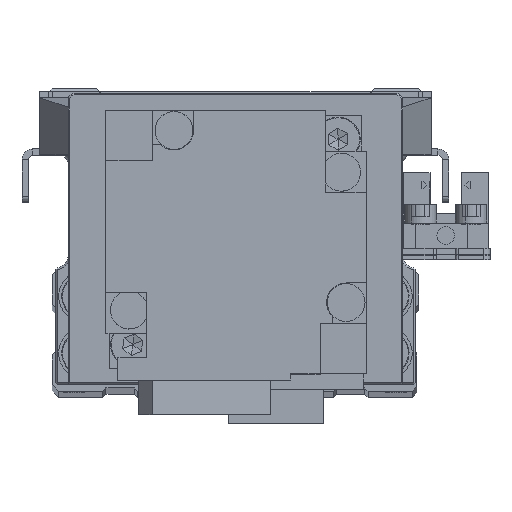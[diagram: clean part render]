
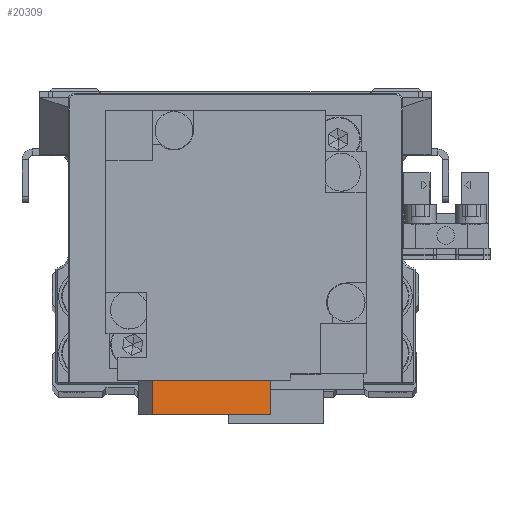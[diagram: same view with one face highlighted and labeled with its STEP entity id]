
A CAD part, top view. The second image highlights one B-rep face of the part: STEP entity #20309.
In plain terms, the highlighted planar face has unit normal (0.156, 0, 0.988) as drawn and (-0.156, 0, -0.988) by its records, which use the part's own axes.
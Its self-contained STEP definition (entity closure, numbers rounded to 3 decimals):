
#88 = DIRECTION ( 'NONE',  ( 0.988, 0., -0.156 ) ) ;
#1853 = VECTOR ( 'NONE', #88, 1000. ) ;
#2282 = DIRECTION ( 'NONE',  ( 0., 1., 0. ) ) ;
#2450 = AXIS2_PLACEMENT_3D ( 'NONE', #5301, #17459, #29637 ) ;
#2785 = EDGE_CURVE ( 'NONE', #23882, #32159, #17422, .T. ) ;
#3454 = DIRECTION ( 'NONE',  ( 0., -1., 0. ) ) ;
#3669 = ORIENTED_EDGE ( 'NONE', *, *, #20898, .T. ) ;
#4044 = LINE ( 'NONE', #16190, #18395 ) ;
#4655 = VECTOR ( 'NONE', #3454, 1000. ) ;
#5301 = CARTESIAN_POINT ( 'NONE',  ( 3.8, -24.75, -77.61 ) ) ;
#7358 = ORIENTED_EDGE ( 'NONE', *, *, #18497, .F. ) ;
#11093 = VECTOR ( 'NONE', #2282, 1000. ) ;
#12088 = CARTESIAN_POINT ( 'NONE',  ( 13.183, -27.5, -79.096 ) ) ;
#15220 = LINE ( 'NONE', #27400, #1853 ) ;
#15618 = VERTEX_POINT ( 'NONE', #31932 ) ;
#16190 = CARTESIAN_POINT ( 'NONE',  ( 3.8, -27.5, -77.61 ) ) ;
#17422 = LINE ( 'NONE', #29597, #11093 ) ;
#17459 = DIRECTION ( 'NONE',  ( 0.156, 0., 0.988 ) ) ;
#17682 = CARTESIAN_POINT ( 'NONE',  ( -5.583, -22., -76.124 ) ) ;
#18395 = VECTOR ( 'NONE', #28364, 1000. ) ;
#18497 = EDGE_CURVE ( 'NONE', #38273, #15618, #18607, .T. ) ;
#18607 = LINE ( 'NONE', #30780, #4655 ) ;
#19187 = EDGE_CURVE ( 'NONE', #15618, #23882, #4044, .T. ) ;
#20309 = ADVANCED_FACE ( 'NONE', ( #20465 ), #32654, .F. ) ;
#20465 = FACE_OUTER_BOUND ( 'NONE', #21706, .T. ) ;
#20898 = EDGE_CURVE ( 'NONE', #38273, #32159, #15220, .T. ) ;
#21706 = EDGE_LOOP ( 'NONE', ( #25498, #25861, #7358, #3669 ) ) ;
#23882 = VERTEX_POINT ( 'NONE', #12088 ) ;
#25498 = ORIENTED_EDGE ( 'NONE', *, *, #2785, .F. ) ;
#25861 = ORIENTED_EDGE ( 'NONE', *, *, #19187, .F. ) ;
#27400 = CARTESIAN_POINT ( 'NONE',  ( -5.583, -22., -76.124 ) ) ;
#28364 = DIRECTION ( 'NONE',  ( 0.988, 0., -0.156 ) ) ;
#29597 = CARTESIAN_POINT ( 'NONE',  ( 13.183, -24.75, -79.096 ) ) ;
#29637 = DIRECTION ( 'NONE',  ( 0.988, 0., -0.156 ) ) ;
#29652 = CARTESIAN_POINT ( 'NONE',  ( 13.183, -22., -79.096 ) ) ;
#30780 = CARTESIAN_POINT ( 'NONE',  ( -5.583, -24.75, -76.124 ) ) ;
#31932 = CARTESIAN_POINT ( 'NONE',  ( -5.583, -27.5, -76.124 ) ) ;
#32159 = VERTEX_POINT ( 'NONE', #29652 ) ;
#32654 = PLANE ( 'NONE',  #2450 ) ;
#38273 = VERTEX_POINT ( 'NONE', #17682 ) ;
